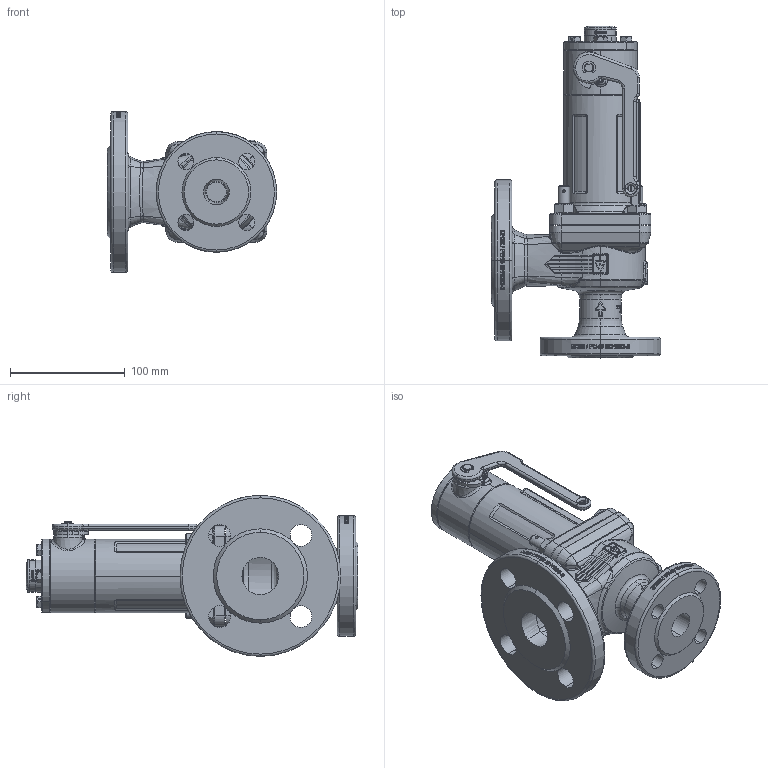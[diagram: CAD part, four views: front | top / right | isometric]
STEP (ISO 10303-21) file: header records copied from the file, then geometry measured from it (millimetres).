
FILE_DESCRIPTION (( 'STEP AP214' ), '1' );
FILE_NAME ('355sGL_20_FLFL_2032.STEP', '2020-01-15T07:14:27', ( '' ), ( '' ), 'SwSTEP 2.0', 'SolidWorks 2018', '' );
FILE_SCHEMA (( 'AUTOMOTIVE_DESIGN' ));
Length unit declared in the file: millimetre
Products named in the file (1): 355sGL_20_FLFL_2032
Bounding box: 147.5 x 289 x 140 mm (x, y, z)
Volume: 944548.4 mm3; surface area: 242142.5 mm2
Topology: 21 solids, 21 shells, 2240 faces, 6001 edges, 3985 vertices
Faces by surface type: bspline 656, cylinder 619, plane 565, cone 233, torus 133, sphere 34
Entity records: 175082 total; most frequent: CARTESIAN_POINT 98680, ORIENTED_EDGE 11896, DIRECTION 9010, EDGE_CURVE 5948, VERTEX_POINT 3982, AXIS2_PLACEMENT_3D 3632, EDGE_LOOP 2550, UNCERTAINTY_MEASURE_WITH_UNIT 2263
